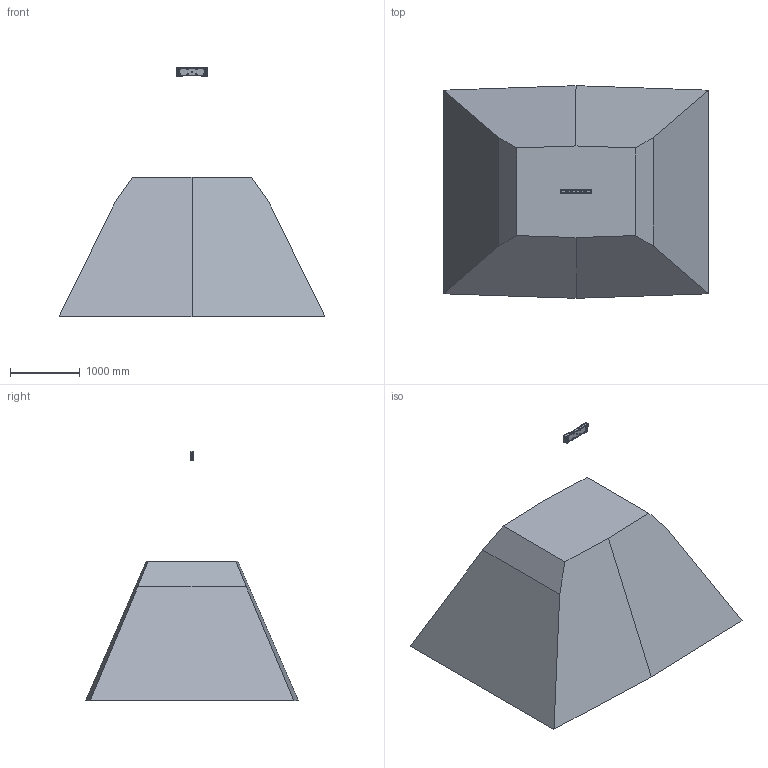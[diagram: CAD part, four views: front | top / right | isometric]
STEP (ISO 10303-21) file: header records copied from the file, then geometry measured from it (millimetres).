
FILE_DESCRIPTION (( 'STEP AP203' ), '1' );
FILE_NAME ('KINGFISHER-W-300W-FOV.STEP', '2025-12-19T07:53:20', ( 'PC' ), ( 'Microsoft' ), 'SwSTEP 2.0', 'SolidWorks 2024', '' );
FILE_SCHEMA (( 'CONFIG_CONTROL_DESIGN' ));
Length unit declared in the file: millimetre
Products named in the file (13): MV_ASM-3003; MVL-HF0624M-10MP-3003; KINGFISHER-W-300W-FOV; MV-CU013-A0GMGC-3003; 8X100X450-3003; 1805A-BEIBAN-R-3003; 36X28X2-3003; 镜向1805A-BEIBAN-R-3003; 1X10-3003; M16-3003; 3002-3003; PC-S-3003
Assembly tree (18 placements, depth 3):
  KINGFISHER-W-300W-FOV
    8X100X450-3003
    3002-3003
    PC-S-3003
    1X10-3003  x4
    1805A-BEIBAN-R-3003
    镜向1805A-BEIBAN-R-3003
    MV_ASM-3003  x2
      MV-CU013-A0GMGC-3003
      MVL-HF0624M-10MP-3003
    36X28X2-3003  x2
    M16-3003  x2
    KINGFISHER-W-300W-FOV
Bounding box: 3811.64 x 3047.35 x 3578.58 mm (x, y, z)
Volume: 12607130331 mm3; surface area: 35949614.4 mm2
Topology: 27 solids, 75 shells, 11578 faces, 30374 edges, 19169 vertices
Faces by surface type: plane 5402, cylinder 2917, cone 1616, bspline 1145, torus 444, sphere 54
Entity records: 260576 total; most frequent: CARTESIAN_POINT 76380, ORIENTED_EDGE 39632, DIRECTION 36162, EDGE_CURVE 19816, AXIS2_PLACEMENT_3D 12702, VERTEX_POINT 12471, LINE 10758, VECTOR 10758
